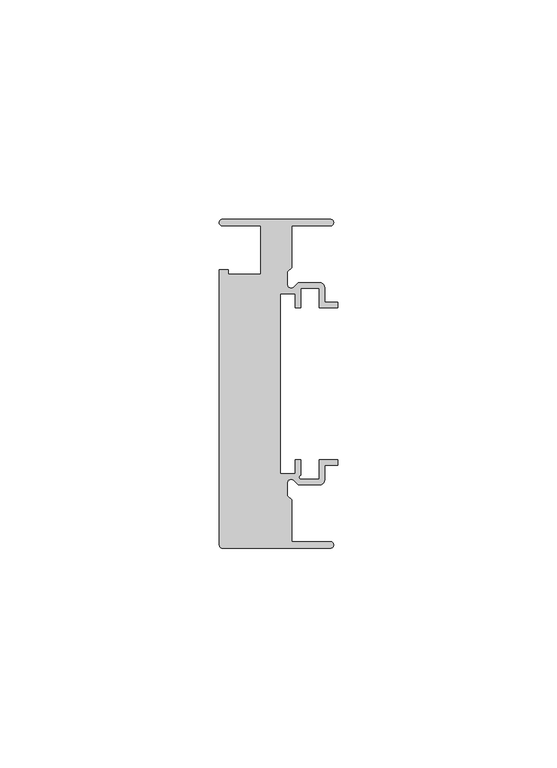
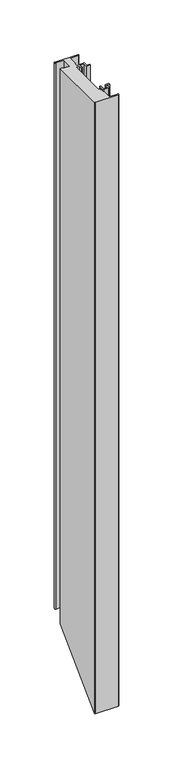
"""IFC4 building model written with IfcOpenShell, lengths in millimetres: member geometry, Прямоугольный импост : 5-AMG-1-Профиль 26Х75 Верх П."""

import ifcopenshell
import ifcopenshell.guid

model = None  # the IFC model being written
_history = None  # IfcOwnerHistory: only IFC2X3 demands one
_inside = {}  # id of a spatial element -> (the spatial element, [elements in it])
_under = {}  # id of a project, library or spatial element -> (it, [spatial elements below it])
_declared = {}  # id of a project -> (the project, [libraries it declares])
_typed = {}  # id of a type object -> (the type object, [elements of that type])
_made_of = {}  # id of a material, layer set ... -> (it, [elements and type objects made of it])


def new_model(schema):
    """Start an empty IFC model of exactly this schema.

    Asked for "IFC4X3", IfcOpenShell would pick the latest addendum, in which some entities
    have other attributes; the version numbers below select the first issue.
    IFC2X3 requires an IfcOwnerHistory on every rooted entity: one is made here for all.
    """
    global model, _history
    if schema == "IFC4X3":
        model = ifcopenshell.file(schema_version=(4, 3, 0, 0))
    else:
        model = ifcopenshell.file(schema=schema)
    _inside.clear()
    _under.clear()
    _declared.clear()
    _typed.clear()
    _made_of.clear()
    _history = None
    if model.schema == "IFC2X3":
        org = make("IfcOrganization", Name="unknown")
        user = make(
            "IfcPersonAndOrganization",
            ThePerson=make("IfcPerson", FamilyName="unknown"),
            TheOrganization=org,
        )
        app = make(
            "IfcApplication",
            ApplicationDeveloper=org,
            Version="unknown",
            ApplicationFullName="unknown",
            ApplicationIdentifier="unknown",
        )
        _history = make(
            "IfcOwnerHistory",
            OwningUser=user,
            OwningApplication=app,
            ChangeAction="ADDED",
            CreationDate=0,
        )
    return model


def make(cls, **values):
    """One entity of the class cls with the attributes given. An attribute that is None is left unset."""
    return model.create_entity(
        cls, **{name: value for name, value in values.items() if value is not None}
    )


def rooted(cls, **values):
    """An entity with a GlobalId (a new one), such as an element, a storey or a relation."""
    return make(cls, GlobalId=ifcopenshell.guid.new(), OwnerHistory=_history, **values)


def si_unit(unit_type, name, prefix=None):
    """IfcSIUnit, for example si_unit("LENGTHUNIT", "METRE", prefix="MILLI")."""
    return make("IfcSIUnit", UnitType=unit_type, Prefix=prefix, Name=name)


def assignment(units):
    """IfcUnitAssignment: the units of a project."""
    return None if units is None else make("IfcUnitAssignment", Units=units)


def point(xyz):
    """IfcCartesianPoint."""
    return None if xyz is None else make("IfcCartesianPoint", Coordinates=xyz)


def direction(xyz):
    """IfcDirection."""
    return None if xyz is None else make("IfcDirection", DirectionRatios=xyz)


def frame(location, z_axis=None, x_axis=None):
    """IfcAxis2Placement3D, a coordinate frame: its origin and axes. An axis left out is left unset."""
    return make(
        "IfcAxis2Placement3D",
        Location=point(location),
        Axis=direction(z_axis),
        RefDirection=direction(x_axis),
    )


def origin():
    """The frame at (0, 0, 0) with its axes left unset."""
    return frame((0.0, 0.0, 0.0))


def place(relative_to, where):
    """IfcLocalPlacement: puts the frame where relative to a parent placement (None: the world)."""
    return make(
        "IfcLocalPlacement", PlacementRelTo=relative_to, RelativePlacement=where
    )


def context(
    kind, dimensions, precision=None, world=None, true_north=None, identifier=None
):
    """IfcGeometricRepresentationContext, for example the 3D "Model" context."""
    return make(
        "IfcGeometricRepresentationContext",
        ContextIdentifier=identifier,
        ContextType=kind,
        CoordinateSpaceDimension=dimensions,
        Precision=precision,
        WorldCoordinateSystem=world,
        TrueNorth=true_north,
    )


def project(units=None, contexts=None):
    """IfcProject with its units and contexts."""
    return rooted(
        "IfcProject",
        Name="project",
        RepresentationContexts=contexts,
        UnitsInContext=assignment(units),
    )


def spatial(cls, under=None, at=None, **own):
    """A site, building, storey or space (cls), placed at a placement, below another one or the project."""
    s = rooted(cls, ObjectPlacement=at, **own)
    if under is not None:
        _under.setdefault(under.id(), (under, []))[1].append(s)
    return s


def polyline(points):
    """IfcPolyline through the points."""
    return make("IfcPolyline", Points=[point(p) for p in points])


def circle_curve(where, radius):
    """IfcCircle in the frame where."""
    return make("IfcCircle", Position=where, Radius=radius)


def ellipse_curve(where, semi_axis1, semi_axis2):
    """IfcEllipse in the frame where."""
    return make(
        "IfcEllipse", Position=where, SemiAxis1=semi_axis1, SemiAxis2=semi_axis2
    )


def shape(context_of_items, identifier, shape_type, items):
    """IfcShapeRepresentation: the items that make up one representation, for example the "Body"."""
    return make(
        "IfcShapeRepresentation",
        ContextOfItems=context_of_items,
        RepresentationIdentifier=identifier,
        RepresentationType=shape_type,
        Items=items,
    )


def source(mapping_origin, context_of_items, identifier, shape_type, items):
    """IfcRepresentationMap: a shape defined once, which mapped items show again and again."""
    return make(
        "IfcRepresentationMap",
        MappingOrigin=mapping_origin,
        MappedRepresentation=shape(context_of_items, identifier, shape_type, items),
    )


def transform(
    local_origin,
    x_axis=None,
    y_axis=None,
    z_axis=None,
    scale=None,
    scale2=None,
    scale3=None,
    uniform=True,
):
    """IfcCartesianTransformationOperator3D, or its non-uniform kind. x_axis, y_axis, z_axis: its Axis1, 2, 3."""
    if uniform:
        return make(
            "IfcCartesianTransformationOperator3D",
            Axis1=direction(x_axis),
            Axis2=direction(y_axis),
            LocalOrigin=point(local_origin),
            Scale=scale,
            Axis3=direction(z_axis),
        )
    return make(
        "IfcCartesianTransformationOperator3DnonUniform",
        Axis1=direction(x_axis),
        Axis2=direction(y_axis),
        LocalOrigin=point(local_origin),
        Scale=scale,
        Axis3=direction(z_axis),
        Scale2=scale2,
        Scale3=scale3,
    )


def mapped(mapping_source, mapping_target):
    """IfcMappedItem: shows the shape of a source again, moved by a transform."""
    return make(
        "IfcMappedItem", MappingSource=mapping_source, MappingTarget=mapping_target
    )


def made_of(thing, what):
    """Note that an element or type object is made of a material, layer set ...; save() writes the relation."""
    if what is not None:
        _made_of.setdefault(what.id(), (what, []))[1].append(thing)
    return thing


def element(
    cls,
    number,
    at=None,
    inside=None,
    cuts=None,
    type_object=None,
    material=None,
    context=None,
    identifier="Body",
    shape_type=None,
    held_by="IfcProductDefinitionShape",
    body=None,
    shapes=None,
    **own,
):
    """One element of the class cls, such as IfcWall. Its Tag is "e" and its number.

    at: its placement. inside: the storey or other place that contains it. cuts: it is an
    opening in that element (IfcRelVoidsElement). A single representation is given by context,
    identifier, shape_type and body (its items); several are given by shapes. held_by: the class
    of the entity that holds the representations. save() writes the other relations.
    """
    e = rooted(cls, Tag="e%d" % number, ObjectPlacement=at, **own)
    if body is not None:
        shapes = [shape(context, identifier, shape_type, body)]
    if shapes is not None:
        e.Representation = make(held_by, Representations=shapes)
    if inside is not None:
        _inside.setdefault(inside.id(), (inside, []))[1].append(e)
    if cuts is not None:
        rooted(
            "IfcRelVoidsElement", RelatingBuildingElement=cuts, RelatedOpeningElement=e
        )
    if type_object is not None:
        _typed.setdefault(type_object.id(), (type_object, []))[1].append(e)
    return made_of(e, material)


def aggregate(whole, parts):
    """IfcRelAggregates: a whole, such as a stair, and the parts it consists of."""
    return rooted("IfcRelAggregates", RelatingObject=whole, RelatedObjects=parts)


def save(model, path):
    """Write the relations noted so far, then the file.

    IfcRelAggregates (storeys below a building ...), IfcRelContainedInSpatialStructure (elements
    in a storey), IfcRelDefinesByType, IfcRelAssociatesMaterial and IfcRelDeclares: one each for
    every whole, place, type object, material and project.
    """
    for whole, parts in _under.values():
        aggregate(whole, parts)
    for where, things in _inside.values():
        rooted(
            "IfcRelContainedInSpatialStructure",
            RelatedElements=things,
            RelatingStructure=where,
        )
    for kind, things in _typed.values():
        rooted("IfcRelDefinesByType", RelatedObjects=things, RelatingType=kind)
    for what, things in _made_of.values():
        rooted("IfcRelAssociatesMaterial", RelatedObjects=things, RelatingMaterial=what)
    for by, libraries in _declared.values():
        rooted("IfcRelDeclares", RelatingContext=by, RelatedDefinitions=libraries)
    model.write(path)


def plane_surface(at):
    """IfcPlane: the flat surface through the origin of the frame at, square to its z axis."""
    return make("IfcPlane", Position=at)


def cylinder_surface(at, radius):
    """IfcCylindricalSurface: all points at the distance radius from the z axis of the frame at."""
    return make("IfcCylindricalSurface", Position=at, Radius=radius)


def revolved_surface(curve, axis_point, axis_direction):
    """IfcSurfaceOfRevolution: the curve turned about the line through axis_point along axis_direction."""
    return make(
        "IfcSurfaceOfRevolution",
        SweptCurve=make("IfcArbitraryOpenProfileDef", ProfileType="CURVE", Curve=curve),
        AxisPosition=make("IfcAxis1Placement", Location=point(axis_point), Axis=direction(axis_direction)),
    )


def advanced_brep(points, edges, surfaces, faces):
    """IfcAdvancedBrep: a solid bounded by faces that lie on surfaces and meet in shared edges.

    An edge is (start, end): straight between two places in points (the first is 0);
    or (start, end, curve); or (start, end, curve, False) where it runs against its curve.
    A face is (place in surfaces, loops), or (place, loops, False) where it looks against
    its surface's normal. A loop lists edges by number (the first is 1), with a minus sign
    where the edge is run from its end to its start. The first loop is the outer one.
    """
    corners = [point(p) for p in points]
    vertices = [make("IfcVertexPoint", VertexGeometry=c) for c in corners]
    made = []
    for start, end, *more in edges:
        made.append(
            make(
                "IfcEdgeCurve",
                EdgeStart=vertices[start],
                EdgeEnd=vertices[end],
                EdgeGeometry=more[0] if more else make("IfcPolyline", Points=[corners[start], corners[end]]),
                SameSense=more[1] if len(more) > 1 else True,
            )
        )
    hull = []
    for where, loops, *sense in faces:
        bounds = []
        for j, loop in enumerate(loops):
            ring = [make("IfcOrientedEdge", EdgeElement=made[abs(k) - 1], Orientation=k > 0) for k in loop]
            bounds.append(
                make(
                    "IfcFaceOuterBound" if j == 0 else "IfcFaceBound",
                    Bound=make("IfcEdgeLoop", EdgeList=ring),
                    Orientation=True,
                )
            )
        hull.append(make("IfcAdvancedFace", Bounds=bounds, FaceSurface=surfaces[where], SameSense=sense[0] if sense else True))
    return make("IfcAdvancedBrep", Outer=make("IfcClosedShell", CfsFaces=hull))


def member_f6f6942f(model_context):
    return source(origin(), model_context, "Body", "AdvancedBrep", [
        advanced_brep(
        [(-1.7, 37.5, 0.0), (-26.25, 37.5, 0.0), (-26.25, 36.0, 0.0), (-17.5, 36.0, 0.0), (-17.5, 25.0, 0.0), (-24.9359877, 25.0, 0.0), (-24.9359877, 26.0, 0.0), (-27.0, 26.0, 0.0), (-27.0, -36.7244847, 0.0), (-26.25, -37.5, 0.0), (-1.7, -37.5, 0.0), (-1.7, -36.0, 0.0), (-10.5, -36.0, 0.0), (-10.5, -26.5029437, 0.0), (-11.5, -25.5029437, 0.0), (-11.5, -22.6727922, 0.0), (-9.9636039, -22.0363961, 0.0), (-9.0, -23.0, 0.0), (-4.0, -23.0, 0.0), (-3.0, -22.0, 0.0), (-3.0, -18.55, 0.0), (0.0, -18.55, 0.0), (0.0, -17.35, 0.0), (-4.2, -17.35, 0.0), (-4.2, -21.8, 0.0), (-8.5029437, -21.8, 0.0), (-8.45, -20.8470563, 0.0), (-8.45, -17.35, 0.0), (-9.65, -17.35, 0.0), (-9.65, -20.55, 0.0), (-13.15, -20.55, 0.0), (-13.15, 20.55, 0.0), (-9.65, 20.55, 0.0), (-9.65, 17.35, 0.0), (-8.45, 17.35, 0.0), (-8.45, 21.8, 0.0), (-4.2, 21.8, 0.0), (-4.2, 17.35, 0.0), (0.0, 17.35, 0.0), (0.0, 18.55, 0.0), (-3.0, 18.55, 0.0), (-3.0, 22.0, 0.0), (-4.0, 23.0, 0.0), (-9.0, 23.0, 0.0), (-9.9636039, 22.0363961, 0.0), (-11.5, 22.6727922, 0.0), (-11.5, 25.5029437, 0.0), (-10.5, 26.5029437, 0.0), (-10.5, 36.0, 0.0), (-1.7, 36.0, 0.0), (-1.7, 37.5, -615.4489262), (-26.25, 37.5, -615.4489262), (-26.25, 36.0, -616.9489262), (-17.5, 36.0, -616.9489262), (-17.5, 25.0, -627.9489262), (-24.9359877, 25.0, -627.9489262), (-24.9359877, 26.0, -626.9489262), (-27.0, 26.0, -626.9489262), (-27.0, -36.7244847, -689.6734109), (-26.25, -37.5, -690.4489262), (-1.7, -37.5, -690.4489262), (-1.7, -36.0, -688.9489262), (-10.5, -36.0, -688.9489262), (-10.5, -26.5029437, -679.4518699), (-11.5, -25.5029437, -678.4518699), (-11.5, -22.6727922, -675.6217184), (-9.9636039, -22.0363961, -674.9853223), (-9.0, -23.0, -675.9489262), (-4.0, -23.0, -675.9489262), (-3.0, -22.0, -674.9489262), (-3.0, -18.55, -671.4989262), (0.0, -18.55, -671.4989262), (0.0, -17.35, -670.2989262), (-4.2, -17.35, -670.2989262), (-4.2, -21.8, -674.7489262), (-8.5029437, -21.8, -674.7489262), (-8.45, -20.8470563, -673.7959824), (-8.45, -17.35, -670.2989262), (-9.65, -17.35, -670.2989262), (-9.65, -20.55, -673.4989262), (-13.15, -20.55, -673.4989262), (-13.15, 20.55, -632.3989262), (-9.65, 20.55, -632.3989262), (-9.65, 17.35, -635.5989262), (-8.45, 17.35, -635.5989262), (-8.45, 21.8, -631.1489262), (-4.2, 21.8, -631.1489262), (-4.2, 17.35, -635.5989262), (0.0, 17.35, -635.5989262), (0.0, 18.55, -634.3989262), (-3.0, 18.55, -634.3989262), (-3.0, 22.0, -630.9489262), (-4.0, 23.0, -629.9489262), (-9.0, 23.0, -629.9489262), (-9.9636039, 22.0363961, -630.9125301), (-11.5, 22.6727922, -630.276134), (-11.5, 25.5029437, -627.4459824), (-10.5, 26.5029437, -626.4459824), (-10.5, 36.0, -616.9489262), (-1.7, 36.0, -616.9489262)],
        [
            (0, 1),
            (1, 2, circle_curve(frame((-26.25, 36.75, 0.0), z_axis=(0.0, 0.0, 1.0), x_axis=(-1.0, 0.0, 0.0)), 0.75)),
            (2, 3),
            (3, 4),
            (4, 5),
            (5, 6),
            (6, 7),
            (7, 8),
            (8, 9, circle_curve(frame((-26.2240507, -36.7244847, 0.0), z_axis=(0.0, 0.0, 1.0), x_axis=(1.0, 0.0, 0.0)), 0.7759493)),
            (9, 10),
            (10, 11, circle_curve(frame((-1.7, -36.75, 0.0), z_axis=(0.0, 0.0, 1.0), x_axis=(-1.0, 0.0, 0.0)), 0.75)),
            (11, 12),
            (12, 13),
            (13, 14),
            (14, 15),
            (15, 16, circle_curve(frame((-10.6, -22.6727922, 0.0), z_axis=(0.0, 0.0, -1.0), x_axis=(1.0, 0.0, 0.0)), 0.9)),
            (16, 17),
            (17, 18),
            (18, 19, circle_curve(frame((-4.0, -22.0, 0.0), z_axis=(0.0, 0.0, 1.0), x_axis=(1.0, 0.0, 0.0)), 1.0)),
            (19, 20),
            (20, 21),
            (21, 22),
            (22, 23),
            (23, 24),
            (24, 25),
            (25, 26, circle_curve(frame((-8.3343131, -21.3314262, 0.0), z_axis=(0.0, 0.0, -1.0), x_axis=(1.0, 0.0, 0.0)), 0.4979937)),
            (26, 27),
            (27, 28),
            (28, 29),
            (29, 30),
            (30, 31),
            (31, 32),
            (32, 33),
            (33, 34),
            (34, 35),
            (35, 36),
            (36, 37),
            (37, 38),
            (38, 39),
            (39, 40),
            (40, 41),
            (41, 42, circle_curve(frame((-4.0, 22.0, 0.0), z_axis=(0.0, 0.0, 1.0), x_axis=(1.0, 0.0, 0.0)), 1.0)),
            (42, 43),
            (43, 44),
            (44, 45, circle_curve(frame((-10.6, 22.6727922, 0.0), z_axis=(0.0, 0.0, -1.0), x_axis=(1.0, 0.0, 0.0)), 0.9)),
            (45, 46),
            (46, 47),
            (47, 48),
            (48, 49),
            (49, 0, circle_curve(frame((-1.7, 36.75, 0.0), z_axis=(0.0, 0.0, 1.0), x_axis=(-1.0, 0.0, 0.0)), 0.75)),
            (0, 50),
            (50, 51),
            (51, 1),
            (51, 52, ellipse_curve(frame((-26.25, 36.75, -616.1989262), z_axis=(0.0, -0.7071067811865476, 0.7071067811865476), x_axis=(0.0, 0.7071067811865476, 0.7071067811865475)), 1.0606602, 0.75)),
            (52, 2),
            (52, 53),
            (53, 3),
            (53, 54),
            (54, 4),
            (54, 55),
            (55, 5),
            (55, 56),
            (56, 6),
            (56, 57),
            (57, 7),
            (57, 58),
            (58, 8),
            (58, 59, ellipse_curve(frame((-26.2240507, -36.7244847, -689.6734109), z_axis=(0.0, -0.7071067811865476, 0.7071067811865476), x_axis=(0.0, 0.7071067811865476, 0.7071067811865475)), 1.097358, 0.7759493)),
            (59, 9),
            (59, 60),
            (60, 10),
            (60, 61, ellipse_curve(frame((-1.7, -36.75, -689.6989262), z_axis=(0.0, -0.7071067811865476, 0.7071067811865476), x_axis=(0.0, 0.7071067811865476, 0.7071067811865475)), 1.0606602, 0.75)),
            (61, 11),
            (61, 62),
            (62, 12),
            (62, 63),
            (63, 13),
            (63, 64),
            (64, 14),
            (64, 65),
            (65, 15),
            (65, 66, ellipse_curve(frame((-10.6, -22.6727922, -675.6217184), z_axis=(0.0, 0.7071067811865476, -0.7071067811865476), x_axis=(0.0, -0.7071067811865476, -0.7071067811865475)), 1.2727922, 0.9)),
            (66, 16),
            (66, 67),
            (67, 17),
            (67, 68),
            (68, 18),
            (68, 69, ellipse_curve(frame((-4.0, -22.0, -674.9489262), z_axis=(0.0, -0.7071067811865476, 0.7071067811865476), x_axis=(0.0, 0.7071067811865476, 0.7071067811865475)), 1.4142136, 1.0)),
            (69, 19),
            (69, 70),
            (70, 20),
            (70, 71),
            (71, 21),
            (71, 72),
            (72, 22),
            (72, 73),
            (73, 23),
            (73, 74),
            (74, 24),
            (74, 75),
            (75, 25),
            (75, 76, ellipse_curve(frame((-8.3343131, -21.3314262, -674.2803524), z_axis=(0.0, 0.7071067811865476, -0.7071067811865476), x_axis=(0.0, -0.7071067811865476, -0.7071067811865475)), 0.7042694, 0.4979937)),
            (76, 26),
            (76, 77),
            (77, 27),
            (77, 78),
            (78, 28),
            (78, 79),
            (79, 29),
            (79, 80),
            (80, 30),
            (80, 81),
            (81, 31),
            (81, 82),
            (82, 32),
            (82, 83),
            (83, 33),
            (83, 84),
            (84, 34),
            (84, 85),
            (85, 35),
            (85, 86),
            (86, 36),
            (86, 87),
            (87, 37),
            (87, 88),
            (88, 38),
            (88, 89),
            (89, 39),
            (89, 90),
            (90, 40),
            (90, 91),
            (91, 41),
            (91, 92, ellipse_curve(frame((-4.0, 22.0, -630.9489262), z_axis=(0.0, -0.7071067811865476, 0.7071067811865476), x_axis=(0.0, 0.7071067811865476, 0.7071067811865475)), 1.4142136, 1.0)),
            (92, 42),
            (92, 93),
            (93, 43),
            (93, 94),
            (94, 44),
            (94, 95, ellipse_curve(frame((-10.6, 22.6727922, -630.276134), z_axis=(0.0, 0.7071067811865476, -0.7071067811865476), x_axis=(0.0, -0.7071067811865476, -0.7071067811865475)), 1.2727922, 0.9)),
            (95, 45),
            (95, 96),
            (96, 46),
            (96, 97),
            (97, 47),
            (97, 98),
            (98, 48),
            (98, 99),
            (99, 49),
            (99, 50, ellipse_curve(frame((-1.7, 36.75, -616.1989262), z_axis=(0.0, -0.7071067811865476, 0.7071067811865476), x_axis=(0.0, 0.7071067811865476, 0.7071067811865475)), 1.0606602, 0.75)),
        ],
        [
            plane_surface(frame((0.0, -45.8897094, 0.0), z_axis=(0.0, 0.0, 1.0), x_axis=(-1.0, 0.0, 0.0))),
            plane_surface(frame((-1.7, 37.5, 0.0), z_axis=(0.0, 1.0, 0.0), x_axis=(0.0, 0.0, -1.0))),
            cylinder_surface(frame((-26.25, 36.75, 0.0), z_axis=(0.0, 0.0, 1.0), x_axis=(-1.0, 0.0, 0.0)), 0.75),
            plane_surface(frame((-26.25, 36.0, 0.0), z_axis=(0.0, -1.0, 0.0), x_axis=(0.0, 0.0, -1.0))),
            plane_surface(frame((-17.5, 36.0, 0.0), z_axis=(-1.0, 0.0, 0.0), x_axis=(0.0, 0.0, -1.0))),
            plane_surface(frame((-17.5, 25.0, 0.0), z_axis=(0.0, 1.0, 0.0), x_axis=(0.0, 0.0, -1.0))),
            plane_surface(frame((-24.9359877, 25.0, 0.0), z_axis=(1.0, 0.0, 0.0), x_axis=(0.0, 0.0, -1.0))),
            plane_surface(frame((-24.9359877, 26.0, 0.0), z_axis=(0.0, 1.0, 0.0), x_axis=(0.0, 0.0, -1.0))),
            plane_surface(frame((-27.0, 26.0, 0.0), z_axis=(-1.0, 0.0, 0.0), x_axis=(0.0, 0.0, -1.0))),
            cylinder_surface(frame((-26.2240507, -36.7244847, 0.0), z_axis=(0.0, 0.0, 1.0), x_axis=(1.0, 0.0, 0.0)), 0.7759493),
            plane_surface(frame((-26.25, -37.5, 0.0), z_axis=(0.0, -1.0, 0.0), x_axis=(0.0, 0.0, -1.0))),
            cylinder_surface(frame((-1.7, -36.75, 0.0), z_axis=(0.0, 0.0, 1.0), x_axis=(-1.0, 0.0, 0.0)), 0.75),
            plane_surface(frame((-1.7, -36.0, 0.0), z_axis=(0.0, 1.0, 0.0), x_axis=(0.0, 0.0, -1.0))),
            plane_surface(frame((-10.5, -36.0, 0.0), z_axis=(1.0, 0.0, 0.0), x_axis=(0.0, 0.0, -1.0))),
            plane_surface(frame((-10.5, -26.5029437, 0.0), z_axis=(0.7071067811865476, 0.7071067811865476, 0.0), x_axis=(0.0, 0.0, -1.0))),
            plane_surface(frame((-11.5, -25.5029437, 0.0), z_axis=(1.0, 0.0, 0.0), x_axis=(0.0, 0.0, -1.0))),
            revolved_surface(polyline([(-9.7, -22.6727922, -676.5217183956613), (-9.7, -22.6727922, 0.0)]), (-10.6, -22.6727922, 0.0), (0.0, 0.0, -1.0)),
            plane_surface(frame((-9.9636039, -22.0363961, 0.0), z_axis=(-0.7071067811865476, -0.7071067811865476, 0.0), x_axis=(0.0, 0.0, -1.0))),
            plane_surface(frame((-9.0, -23.0, 0.0), z_axis=(0.0, -1.0, 0.0), x_axis=(0.0, 0.0, -1.0))),
            cylinder_surface(frame((-4.0, -22.0, 0.0), z_axis=(0.0, 0.0, 1.0), x_axis=(1.0, 0.0, 0.0)), 1.0),
            plane_surface(frame((-3.0, -22.0, 0.0), z_axis=(1.0, 0.0, 0.0), x_axis=(0.0, 0.0, -1.0))),
            plane_surface(frame((-3.0, -18.55, 0.0), z_axis=(0.0, -1.0, 0.0), x_axis=(0.0, 0.0, -1.0))),
            plane_surface(frame((0.0, -18.55, 0.0), z_axis=(1.0, 0.0, 0.0), x_axis=(0.0, 0.0, -1.0))),
            plane_surface(frame((0.0, -17.35, 0.0), z_axis=(0.0, 1.0, 0.0), x_axis=(0.0, 0.0, -1.0))),
            plane_surface(frame((-4.2, -17.35, 0.0), z_axis=(-1.0, 0.0, 0.0), x_axis=(0.0, 0.0, -1.0))),
            plane_surface(frame((-4.2, -21.8, 0.0), z_axis=(0.0, 1.0, 0.0), x_axis=(0.0, 0.0, -1.0))),
            revolved_surface(polyline([(-7.836319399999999, -21.3314262, -674.7783460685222), (-7.836319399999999, -21.3314262, 0.0)]), (-8.3343131, -21.3314262, 0.0), (0.0, 0.0, -1.0)),
            plane_surface(frame((-8.45, -20.8470563, 0.0), z_axis=(1.0, 0.0, 0.0), x_axis=(0.0, 0.0, -1.0))),
            plane_surface(frame((-8.45, -17.35, 0.0), z_axis=(0.0, 1.0, 0.0), x_axis=(0.0, 0.0, -1.0))),
            plane_surface(frame((-9.65, -17.35, 0.0), z_axis=(-1.0, 0.0, 0.0), x_axis=(0.0, 0.0, -1.0))),
            plane_surface(frame((-9.65, -20.55, 0.0), z_axis=(0.0, 1.0, 0.0), x_axis=(0.0, 0.0, -1.0))),
            plane_surface(frame((-13.15, -20.55, 0.0), z_axis=(1.0, 0.0, 0.0), x_axis=(0.0, 0.0, -1.0))),
            plane_surface(frame((-13.15, 20.55, 0.0), z_axis=(0.0, -1.0, 0.0), x_axis=(0.0, 0.0, -1.0))),
            plane_surface(frame((-9.65, 20.55, 0.0), z_axis=(-1.0, 0.0, 0.0), x_axis=(0.0, 0.0, -1.0))),
            plane_surface(frame((-9.65, 17.35, 0.0), z_axis=(0.0, -1.0, 0.0), x_axis=(0.0, 0.0, -1.0))),
            plane_surface(frame((-8.45, 17.35, 0.0), z_axis=(1.0, 0.0, 0.0), x_axis=(0.0, 0.0, -1.0))),
            plane_surface(frame((-8.45, 21.8, 0.0), z_axis=(0.0, -1.0, 0.0), x_axis=(0.0, 0.0, -1.0))),
            plane_surface(frame((-4.2, 21.8, 0.0), z_axis=(-1.0, 0.0, 0.0), x_axis=(0.0, 0.0, -1.0))),
            plane_surface(frame((-4.2, 17.35, 0.0), z_axis=(0.0, -1.0, 0.0), x_axis=(0.0, 0.0, -1.0))),
            plane_surface(frame((0.0, 17.35, 0.0), z_axis=(1.0, 0.0, 0.0), x_axis=(0.0, 0.0, -1.0))),
            plane_surface(frame((0.0, 18.55, 0.0), z_axis=(0.0, 1.0, 0.0), x_axis=(0.0, 0.0, -1.0))),
            plane_surface(frame((-3.0, 18.55, 0.0), z_axis=(1.0, 0.0, 0.0), x_axis=(0.0, 0.0, -1.0))),
            cylinder_surface(frame((-4.0, 22.0, 0.0), z_axis=(0.0, 0.0, 1.0), x_axis=(1.0, 0.0, 0.0)), 1.0),
            plane_surface(frame((-4.0, 23.0, 0.0), z_axis=(0.0, 1.0, 0.0), x_axis=(0.0, 0.0, -1.0))),
            plane_surface(frame((-9.0, 23.0, 0.0), z_axis=(-0.7071067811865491, 0.707106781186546, 0.0), x_axis=(0.0, 0.0, -1.0))),
            revolved_surface(polyline([(-9.7, 22.6727922, -631.1761339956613), (-9.7, 22.6727922, 0.0)]), (-10.6, 22.6727922, 0.0), (0.0, 0.0, -1.0)),
            plane_surface(frame((-11.5, 22.6727922, 0.0), z_axis=(1.0, 0.0, 0.0), x_axis=(0.0, 0.0, -1.0))),
            plane_surface(frame((-11.5, 25.5029437, 0.0), z_axis=(0.7071067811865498, -0.7071067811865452, 0.0), x_axis=(0.0, 0.0, -1.0))),
            plane_surface(frame((-10.5, 26.5029437, 0.0), z_axis=(1.0, 0.0, 0.0), x_axis=(0.0, 0.0, -1.0))),
            plane_surface(frame((-10.5, 36.0, 0.0), z_axis=(0.0, -1.0, 0.0), x_axis=(0.0, 0.0, -1.0))),
            cylinder_surface(frame((-1.7, 36.75, 0.0), z_axis=(0.0, 0.0, 1.0), x_axis=(-1.0, 0.0, 0.0)), 0.75),
            plane_surface(frame((-304.8, 0.0, -652.9489262), z_axis=(0.0, 0.7071067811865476, -0.7071067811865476), x_axis=(0.0, 0.7071067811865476, 0.7071067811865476))),
        ],
        [
            (0, [[1, 2, 3, 4, 5, 6, 7, 8, 9, 10, 11, 12, 13, 14, 15, 16, 17, 18, 19, 20, 21, 22, 23, 24, 25, 26, 27, 28, 29, 30, 31, 32, 33, 34, 35, 36, 37, 38, 39, 40, 41, 42, 43, 44, 45, 46, 47, 48, 49, 50]]),
            (1, [[-1, 51, 52, 53]]),
            (2, [[-2, -53, 54, 55]]),
            (3, [[-3, -55, 56, 57]]),
            (4, [[-4, -57, 58, 59]]),
            (5, [[-5, -59, 60, 61]]),
            (6, [[-6, -61, 62, 63]]),
            (7, [[-7, -63, 64, 65]]),
            (8, [[-8, -65, 66, 67]]),
            (9, [[-9, -67, 68, 69]]),
            (10, [[-10, -69, 70, 71]]),
            (11, [[-11, -71, 72, 73]]),
            (12, [[-12, -73, 74, 75]]),
            (13, [[-13, -75, 76, 77]]),
            (14, [[-14, -77, 78, 79]]),
            (15, [[-15, -79, 80, 81]]),
            (16, [[-16, -81, 82, 83]]),
            (17, [[-17, -83, 84, 85]]),
            (18, [[-18, -85, 86, 87]]),
            (19, [[-19, -87, 88, 89]]),
            (20, [[-20, -89, 90, 91]]),
            (21, [[-21, -91, 92, 93]]),
            (22, [[-22, -93, 94, 95]]),
            (23, [[-23, -95, 96, 97]]),
            (24, [[-24, -97, 98, 99]]),
            (25, [[-25, -99, 100, 101]]),
            (26, [[-26, -101, 102, 103]]),
            (27, [[-27, -103, 104, 105]]),
            (28, [[-28, -105, 106, 107]]),
            (29, [[-29, -107, 108, 109]]),
            (30, [[-30, -109, 110, 111]]),
            (31, [[-31, -111, 112, 113]]),
            (32, [[-32, -113, 114, 115]]),
            (33, [[-33, -115, 116, 117]]),
            (34, [[-34, -117, 118, 119]]),
            (35, [[-35, -119, 120, 121]]),
            (36, [[-36, -121, 122, 123]]),
            (37, [[-37, -123, 124, 125]]),
            (38, [[-38, -125, 126, 127]]),
            (39, [[-39, -127, 128, 129]]),
            (40, [[-40, -129, 130, 131]]),
            (41, [[-41, -131, 132, 133]]),
            (42, [[-42, -133, 134, 135]]),
            (43, [[-43, -135, 136, 137]]),
            (44, [[-44, -137, 138, 139]]),
            (45, [[-45, -139, 140, 141]]),
            (46, [[-46, -141, 142, 143]]),
            (47, [[-47, -143, 144, 145]]),
            (48, [[-48, -145, 146, 147]]),
            (49, [[-49, -147, 148, 149]]),
            (50, [[-50, -149, 150, -51]]),
            (51, [[-150, -148, -146, -144, -142, -140, -138, -136, -134, -132, -130, -128, -126, -124, -122, -120, -118, -116, -114, -112, -110, -108, -106, -104, -102, -100, -98, -96, -94, -92, -90, -88, -86, -84, -82, -80, -78, -76, -74, -72, -70, -68, -66, -64, -62, -60, -58, -56, -54, -52]]),
        ],
    ),
    ])


if __name__ == "__main__":
    model = new_model("IFC4")
    model_context = context("Model", 3, world=origin())
    ifc_project = project(units=[si_unit("LENGTHUNIT", "METRE", prefix="MILLI")], contexts=[model_context])
    site = spatial("IfcSite", under=ifc_project)
    building = spatial("IfcBuilding", under=site)
    placement = place(None, origin())
    member_shape = member_f6f6942f(model_context)
    element("IfcMember", 1, ObjectType="Прямоугольный импост : 5-AMG-1-Профиль 26Х75 Верх П", at=placement, inside=building, context=model_context, shape_type="MappedRepresentation", body=[
        mapped(member_shape, transform((0.0, 0.0, 0.0), x_axis=(1.0, 0.0, 0.0), y_axis=(0.0, 1.0, 0.0), z_axis=(0.0, 0.0, 1.0))),
    ])
    save(model, "model.ifc")
